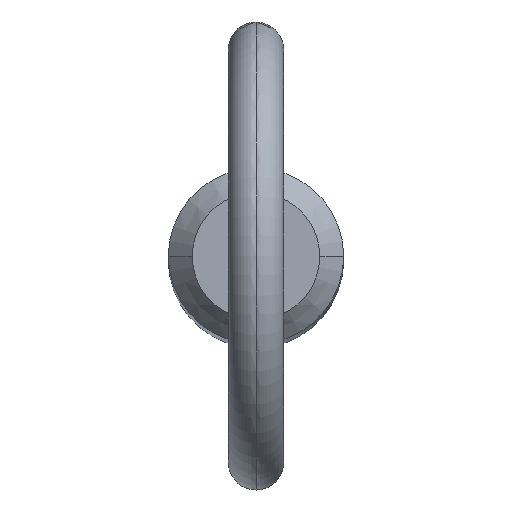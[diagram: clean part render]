
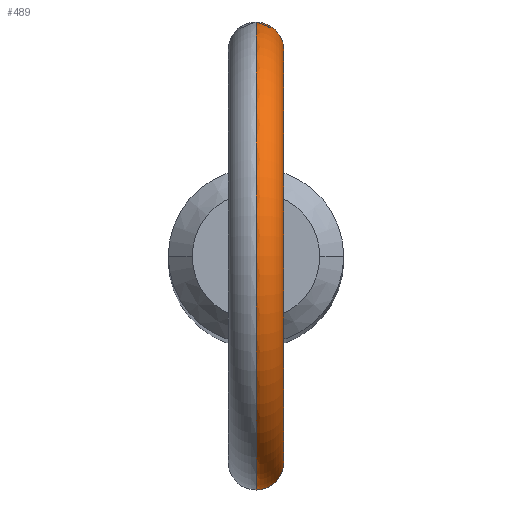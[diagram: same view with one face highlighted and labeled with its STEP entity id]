
A CAD part, top view. The second image highlights one B-rep face of the part: STEP entity #489.
In plain terms, the highlighted toroidal (fillet/blend) face has major radius 11.2 mm and minor radius 1.5 mm.
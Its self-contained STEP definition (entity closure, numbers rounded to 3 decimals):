
#6 = CARTESIAN_POINT ( 'NONE',  ( 1.492, -4.52, 109.348 ) ) ;
#8 = CARTESIAN_POINT ( 'NONE',  ( 0.506, -4.734, 110.837 ) ) ;
#9 = ORIENTED_EDGE ( 'NONE', *, *, #148, .F. ) ;
#10 = CARTESIAN_POINT ( 'NONE',  ( 0.687, -4.711, 110.735 ) ) ;
#11 = CARTESIAN_POINT ( 'NONE',  ( 1.478, -4.525, 109.452 ) ) ;
#28 = DIRECTION ( 'NONE',  ( 1., 0., 0. ) ) ;
#38 = CARTESIAN_POINT ( 'NONE',  ( 1.499, -4.518, 109.037 ) ) ;
#42 = CARTESIAN_POINT ( 'NONE',  ( 1.473, -4.526, 108.831 ) ) ;
#44 = CARTESIAN_POINT ( 'NONE',  ( 0.208, -4.757, 107.636 ) ) ;
#52 = CARTESIAN_POINT ( 'NONE',  ( 0.104, 4.76, 107.626 ) ) ;
#53 = VERTEX_POINT ( 'NONE', #476 ) ;
#77 = CARTESIAN_POINT ( 'NONE',  ( 0., -4.76, 107.626 ) ) ;
#83 = CARTESIAN_POINT ( 'NONE',  ( 1.19, -4.611, 110.224 ) ) ;
#96 = B_SPLINE_CURVE_WITH_KNOTS ( 'NONE', 3,
 ( #114, #399, #239, #487, #8, #10, #283, #485, #490, #83, #488, #116, #247, #11, #6, #284, #38, #42, #493, #450, #162, #453, #249, #322, #286, #327, #121, #44, #118, #77 ),
 .UNSPECIFIED., .F., .F.,
 ( 4, 2, 2, 2, 2, 2, 2, 2, 2, 2, 2, 2, 2, 2, 4 ),
 ( 0.004, 0.005, 0.005, 0.005, 0.006, 0.006, 0.007, 0.007, 0.007, 0.007, 0.008, 0.008, 0.009, 0.009, 0.009 ),
 .UNSPECIFIED. ) ;
#97 = AXIS2_PLACEMENT_3D ( 'NONE', #211, #170, #295 ) ;
#100 = CARTESIAN_POINT ( 'NONE',  ( 0., 4.76, 110.948 ) ) ;
#112 = B_SPLINE_CURVE_WITH_KNOTS ( 'NONE', 3,
 ( #370, #52, #166, #216, #422, #506, #262, #176, #414, #128, #315, #345, #430, #190, #272, #523, #196, #274, #441, #310, #481, #233, #394, #100 ),
 .UNSPECIFIED., .F., .F.,
 ( 4, 2, 2, 2, 2, 2, 2, 2, 2, 2, 2, 4 ),
 ( 0.001, 0.001, 0.001, 0.002, 0.002, 0.002, 0.003, 0.004, 0.004, 0.005, 0.005, 0.006 ),
 .UNSPECIFIED. ) ;
#114 = CARTESIAN_POINT ( 'NONE',  ( 0., -4.76, 110.948 ) ) ;
#116 = CARTESIAN_POINT ( 'NONE',  ( 1.404, -4.548, 109.753 ) ) ;
#118 = CARTESIAN_POINT ( 'NONE',  ( 0.105, -4.76, 107.626 ) ) ;
#121 = CARTESIAN_POINT ( 'NONE',  ( 0.411, -4.743, 107.677 ) ) ;
#128 = CARTESIAN_POINT ( 'NONE',  ( 1.343, 4.567, 108.437 ) ) ;
#147 = DIRECTION ( 'NONE',  ( 0., 0., -1. ) ) ;
#148 = EDGE_CURVE ( 'NONE', #169, #415, #448, .T. ) ;
#154 = ORIENTED_EDGE ( 'NONE', *, *, #445, .F. ) ;
#159 = DIRECTION ( 'NONE',  ( 1., 0., 0. ) ) ;
#162 = CARTESIAN_POINT ( 'NONE',  ( 1.344, -4.567, 108.439 ) ) ;
#166 = CARTESIAN_POINT ( 'NONE',  ( 0.207, 4.757, 107.636 ) ) ;
#169 = VERTEX_POINT ( 'NONE', #232 ) ;
#170 = DIRECTION ( 'NONE',  ( 1., 0., 0. ) ) ;
#176 = CARTESIAN_POINT ( 'NONE',  ( 1.177, 4.613, 108.175 ) ) ;
#190 = CARTESIAN_POINT ( 'NONE',  ( 1.487, 4.522, 109.453 ) ) ;
#195 = CARTESIAN_POINT ( 'NONE',  ( 0., 0., 119.4 ) ) ;
#196 = CARTESIAN_POINT ( 'NONE',  ( 1.188, 4.611, 110.227 ) ) ;
#199 = CIRCLE ( 'NONE', #97, 12.7 ) ;
#211 = CARTESIAN_POINT ( 'NONE',  ( 0., 0., 119.4 ) ) ;
#216 = CARTESIAN_POINT ( 'NONE',  ( 0.411, 4.743, 107.677 ) ) ;
#232 = CARTESIAN_POINT ( 'NONE',  ( 0., 4.76, 110.948 ) ) ;
#233 = CARTESIAN_POINT ( 'NONE',  ( 0.415, 4.745, 110.888 ) ) ;
#239 = CARTESIAN_POINT ( 'NONE',  ( 0.209, -4.756, 110.934 ) ) ;
#245 = CARTESIAN_POINT ( 'NONE',  ( 0., 0., 119.4 ) ) ;
#247 = CARTESIAN_POINT ( 'NONE',  ( 1.434, -4.539, 109.654 ) ) ;
#249 = CARTESIAN_POINT ( 'NONE',  ( 1.178, -4.613, 108.176 ) ) ;
#251 = EDGE_CURVE ( 'NONE', #438, #169, #112, .T. ) ;
#262 = CARTESIAN_POINT ( 'NONE',  ( 0.968, 4.663, 107.949 ) ) ;
#272 = CARTESIAN_POINT ( 'NONE',  ( 1.441, 4.537, 109.659 ) ) ;
#274 = CARTESIAN_POINT ( 'NONE',  ( 0.996, 4.655, 110.466 ) ) ;
#283 = CARTESIAN_POINT ( 'NONE',  ( 0.77, -4.698, 110.675 ) ) ;
#284 = CARTESIAN_POINT ( 'NONE',  ( 1.503, -4.517, 109.14 ) ) ;
#286 = CARTESIAN_POINT ( 'NONE',  ( 0.797, -4.697, 107.829 ) ) ;
#292 = AXIS2_PLACEMENT_3D ( 'NONE', #195, #28, #147 ) ;
#295 = DIRECTION ( 'NONE',  ( 0., 0., -1. ) ) ;
#299 = FACE_OUTER_BOUND ( 'NONE', #395, .T. ) ;
#310 = CARTESIAN_POINT ( 'NONE',  ( 0.771, 4.698, 110.675 ) ) ;
#315 = CARTESIAN_POINT ( 'NONE',  ( 1.385, 4.554, 108.53 ) ) ;
#322 = CARTESIAN_POINT ( 'NONE',  ( 0.97, -4.662, 107.95 ) ) ;
#324 = TOROIDAL_SURFACE ( 'NONE', #390, 11.2, 1.5 ) ;
#327 = CARTESIAN_POINT ( 'NONE',  ( 0.512, -4.733, 107.708 ) ) ;
#345 = CARTESIAN_POINT ( 'NONE',  ( 1.484, 4.523, 108.828 ) ) ;
#370 = CARTESIAN_POINT ( 'NONE',  ( 0., 4.76, 107.626 ) ) ;
#390 = AXIS2_PLACEMENT_3D ( 'NONE', #245, #159, #404 ) ;
#394 = CARTESIAN_POINT ( 'NONE',  ( 0.208, 4.76, 110.948 ) ) ;
#395 = EDGE_LOOP ( 'NONE', ( #405, #455, #154, #9 ) ) ;
#399 = CARTESIAN_POINT ( 'NONE',  ( 0.104, -4.76, 110.948 ) ) ;
#404 = DIRECTION ( 'NONE',  ( 0., 0., -1. ) ) ;
#405 = ORIENTED_EDGE ( 'NONE', *, *, #251, .F. ) ;
#414 = CARTESIAN_POINT ( 'NONE',  ( 1.239, 4.596, 108.259 ) ) ;
#415 = VERTEX_POINT ( 'NONE', #432 ) ;
#422 = CARTESIAN_POINT ( 'NONE',  ( 0.511, 4.733, 107.708 ) ) ;
#430 = CARTESIAN_POINT ( 'NONE',  ( 1.508, 4.515, 109.037 ) ) ;
#432 = CARTESIAN_POINT ( 'NONE',  ( 0., -4.76, 110.948 ) ) ;
#438 = VERTEX_POINT ( 'NONE', #478 ) ;
#441 = CARTESIAN_POINT ( 'NONE',  ( 0.925, 4.67, 110.54 ) ) ;
#445 = EDGE_CURVE ( 'NONE', #415, #53, #96, .T. ) ;
#448 = CIRCLE ( 'NONE', #292, 9.7 ) ;
#450 = CARTESIAN_POINT ( 'NONE',  ( 1.385, -4.554, 108.532 ) ) ;
#453 = CARTESIAN_POINT ( 'NONE',  ( 1.24, -4.596, 108.26 ) ) ;
#455 = ORIENTED_EDGE ( 'NONE', *, *, #501, .T. ) ;
#476 = CARTESIAN_POINT ( 'NONE',  ( 0., -4.76, 107.626 ) ) ;
#478 = CARTESIAN_POINT ( 'NONE',  ( 0., 4.76, 107.626 ) ) ;
#481 = CARTESIAN_POINT ( 'NONE',  ( 0.685, 4.711, 110.736 ) ) ;
#485 = CARTESIAN_POINT ( 'NONE',  ( 0.925, -4.67, 110.539 ) ) ;
#487 = CARTESIAN_POINT ( 'NONE',  ( 0.409, -4.743, 110.878 ) ) ;
#488 = CARTESIAN_POINT ( 'NONE',  ( 1.293, -4.582, 110.042 ) ) ;
#489 = ADVANCED_FACE ( 'NONE', ( #299 ), #324, .T. ) ;
#490 = CARTESIAN_POINT ( 'NONE',  ( 0.997, -4.655, 110.464 ) ) ;
#493 = CARTESIAN_POINT ( 'NONE',  ( 1.45, -4.534, 108.728 ) ) ;
#501 = EDGE_CURVE ( 'NONE', #438, #53, #199, .T. ) ;
#506 = CARTESIAN_POINT ( 'NONE',  ( 0.795, 4.697, 107.828 ) ) ;
#523 = CARTESIAN_POINT ( 'NONE',  ( 1.292, 4.582, 110.044 ) ) ;
